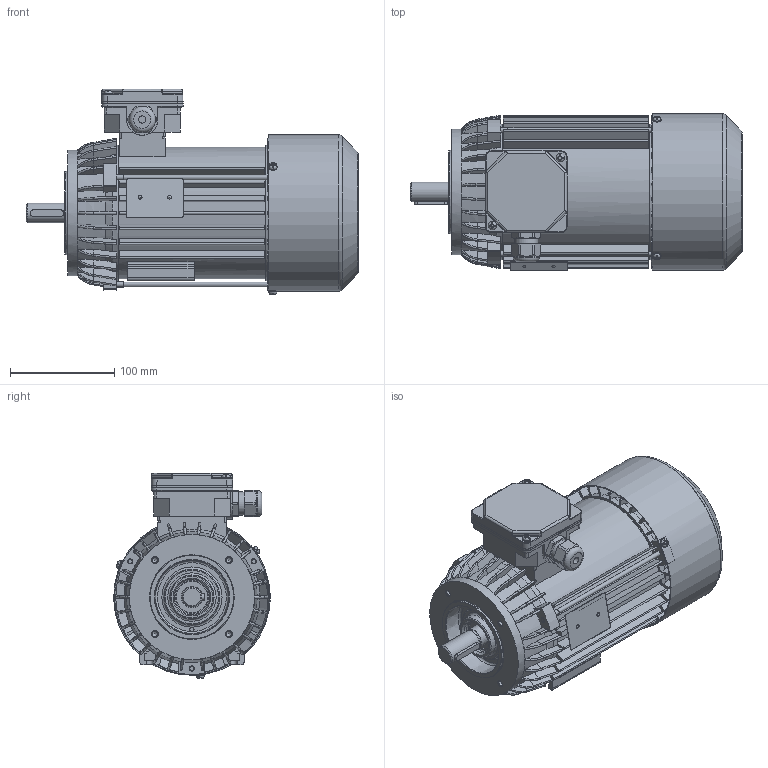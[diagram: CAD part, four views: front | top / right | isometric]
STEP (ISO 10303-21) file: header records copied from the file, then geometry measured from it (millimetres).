
FILE_DESCRIPTION(/* description */ ('Unknown'),/* implementation_level */ '2;1');
FILE_NAME(/* name */ '2SIEK80-8B2',/* time_stamp */ '2021-04-12T14:56:29+02:00',/* author */ ('Unknown'),/* organization */ ('Unknown'),/* preprocessor_version */ 'ST-DEVELOPER v16.7',/* originating_system */ 'Solid Edge',/* authorisation */ 'Unknown');
FILE_SCHEMA (('AUTOMOTIVE_DESIGN {1 0 10303 214 3 1 1}'));
Products named in the file (1): 2SIEK80-8B2
Bounding box: 317.78 x 150.01 x 196.68 mm (x, y, z)
Volume: 897234.8 mm3; surface area: 563463.5 mm2
Topology: 4 solids, 4 shells, 2637 faces, 7517 edges, 4888 vertices
Faces by surface type: plane 1258, cylinder 761, bspline 262, torus 183, cone 153, sphere 20
Full cylindrical faces by diameter (mm): 2 x2, 2.4 x2, 3.7 x8, 4 x5, 4.4 x3, 4.5 x1, 4.8 x2, 5 x9, 5.1 x3, 5.5 x3, 7 x1, 8 x6, 18.598 x1, 18.998 x1, 19.298 x1, 19.498 x1, 19.898 x1, 19.948 x1, 19.998 x2, 20.4 x2, 22.3 x1, 25 x1, 25.497 x1, 25.597 x1, 25.997 x4, 28.799 x4, 30 x1, 34 x1, 38.198 x4, 42 x2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
Entity records: 110257 total; most frequent: CARTESIAN_POINT 27934, ORIENTED_EDGE 14246, DIRECTION 12732, EDGE_CURVE 7123, VERTEX_POINT 4730, AXIS2_PLACEMENT_3D 4664, LINE 3404, VECTOR 3404
